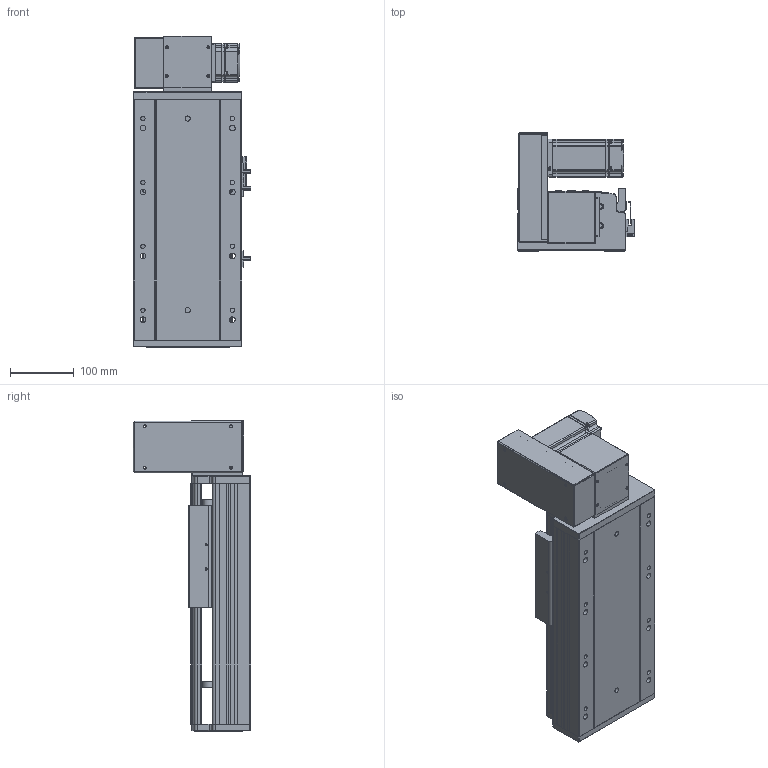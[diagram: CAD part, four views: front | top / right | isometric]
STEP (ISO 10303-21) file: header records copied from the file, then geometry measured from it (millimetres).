
FILE_DESCRIPTION (( 'STEP AP203' ), '1' );
FILE_NAME ('RY170-T-300-UL-P400W.SLDASM_100.step', '2021-03-02T02:11:45', ( '盈信电脑' ), ( '东莞市道滘镇水果街19号' ), 'SwSTEP 2.0', 'SolidWorks 2012', '' );
FILE_SCHEMA (( 'CONFIG_CONTROL_DESIGN' ));
Length unit declared in the file: millimetre
Products named in the file (18): 15; RY170-T-300-UL-P400W.SLDASM_100; RY170肮祭謫萇儂欶; RY120-T主同步轮轴承压盖; RY170-T蹟翐M4; RY170同步轮电机安装板(400W); RY170-T肮祭湍揤踡輸2; 滅袉蝶18-10; RY170-T肮祭謫裔啣; RY170肮祭謫ヶ裔啣; RY170外置感应片(200共用）; RY170翋肮祭謫釱; RY170-T肮祭湍揤踡輸1; 覜茼ん672; RY170-T-300肮祭謫倰第裔啣-DL_100; RY170綴裔啣; RY170肮祭湍臏賑輸; RY170-T-300肮祭謫倰第菁釱-DL_100
Assembly tree (20 placements, depth 2):
  RY170-T-300-UL-P400W.SLDASM_100
    RY170-T-300肮祭謫倰第菁釱-DL_100
    RY170肮祭湍臏賑輸
    RY170-T-300肮祭謫倰第裔啣-DL_100
    RY170綴裔啣
    覜茼ん672  x3
    RY170外置感应片(200共用）
    RY170肮祭謫ヶ裔啣
    RY170翋肮祭謫釱
    RY170-T肮祭湍揤踡輸1
    RY170-T肮祭湍揤踡輸2
    RY170-T肮祭謫裔啣
    滅袉蝶18-10  x2
    RY120-T主同步轮轴承压盖
    RY170肮祭謫萇儂欶
    RY170同步轮电机安装板(400W)
    RY170-T蹟翐M4
    15
Bounding box: 183.7 x 184 x 488 mm (x, y, z)
Volume: 3124683.1 mm3; surface area: 994520.5 mm2
Topology: 20 solids, 20 shells, 2361 faces, 6502 edges, 4193 vertices
Faces by surface type: plane 1139, cylinder 1012, cone 180, bspline 30
Entity records: 73832 total; most frequent: CARTESIAN_POINT 15657, ORIENTED_EDGE 11760, DIRECTION 11708, EDGE_CURVE 5880, AXIS2_PLACEMENT_3D 4066, VERTEX_POINT 3861, VECTOR 3576, LINE 3576
